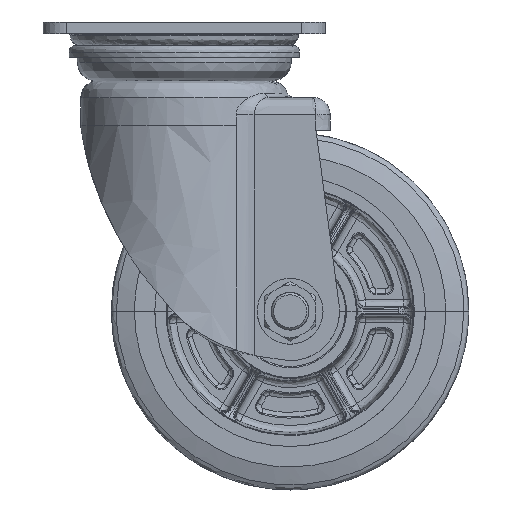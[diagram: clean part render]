
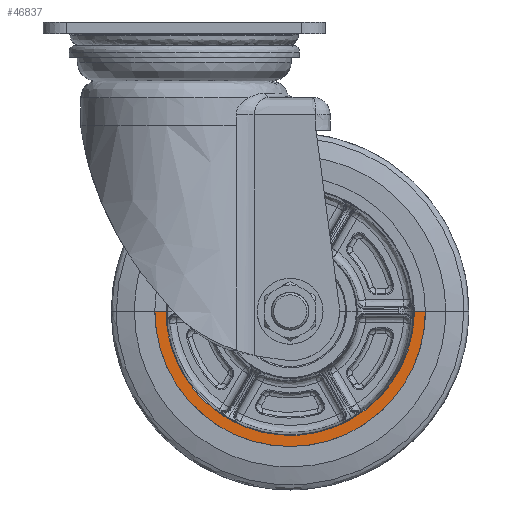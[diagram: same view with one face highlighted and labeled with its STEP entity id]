
A CAD part, left-side view. The second image highlights one B-rep face of the part: STEP entity #46837.
In plain terms, the highlighted planar face has unit normal (-1, 0, 0).
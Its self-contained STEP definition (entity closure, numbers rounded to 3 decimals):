
#9321 = EDGE_LOOP ( 'NONE', ( #9343, #9656, #9327, #9326 ) ) ;
#9326 = ORIENTED_EDGE ( 'NONE', *, *, #49776, .F. ) ;
#9327 = ORIENTED_EDGE ( 'NONE', *, *, #49775, .F. ) ;
#9343 = ORIENTED_EDGE ( 'NONE', *, *, #49703, .F. ) ;
#9656 = ORIENTED_EDGE ( 'NONE', *, *, #49774, .F. ) ;
#13176 = B_SPLINE_CURVE_WITH_KNOTS ( 'NONE', 3,
 ( #110341, #110380, #110382, #110384, #110386, #110388, #110390, #110392, #110394, #110396, #110398, #110400, #110402, #110404, #110406, #110408, #110410, #110412, #110414 ),
 .UNSPECIFIED., .F., .F.,
 ( 4, 3, 3, 3, 3, 3, 4 ),
 ( 0., 0.167, 0.333, 0.5, 0.667, 0.833, 1. ),
 .UNSPECIFIED. ) ;
#13244 = B_SPLINE_CURVE_WITH_KNOTS ( 'NONE', 3,
 ( #112255, #112266, #112268, #112270 ),
 .UNSPECIFIED., .F., .F.,
 ( 4, 4 ),
 ( 0., 1. ),
 .UNSPECIFIED. ) ;
#13245 = B_SPLINE_CURVE_WITH_KNOTS ( 'NONE', 3,
 ( #112264, #112275, #112277, #112279, #112281, #112283, #112285, #112287, #112289, #112291, #112293, #112295, #112297, #112299, #112301, #112303, #112305, #112307, #112309 ),
 .UNSPECIFIED., .F., .F.,
 ( 4, 3, 3, 3, 3, 3, 4 ),
 ( 0., 0.167, 0.333, 0.5, 0.667, 0.833, 1. ),
 .UNSPECIFIED. ) ;
#13246 = B_SPLINE_CURVE_WITH_KNOTS ( 'NONE', 3,
 ( #112273, #112314, #112316, #112318 ),
 .UNSPECIFIED., .F., .F.,
 ( 4, 4 ),
 ( 0., 1. ),
 .UNSPECIFIED. ) ;
#13453 = FACE_OUTER_BOUND ( 'NONE', #9321, .T. ) ;
#35327 = CARTESIAN_POINT ( 'NONE',  ( -25., 57.5, 0. ) ) ;
#35328 = CARTESIAN_POINT ( 'NONE',  ( -25., -57.5, 0. ) ) ;
#46837 = ADVANCED_FACE ( 'NONE', ( #13453 ), #96954, .F. ) ;
#49703 = EDGE_CURVE ( 'NONE', #71766, #71767, #13176, .T. ) ;
#49774 = EDGE_CURVE ( 'NONE', #108359, #71766, #13244, .T. ) ;
#49775 = EDGE_CURVE ( 'NONE', #108362, #108359, #13245, .T. ) ;
#49776 = EDGE_CURVE ( 'NONE', #71767, #108362, #13246, .T. ) ;
#50043 = AXIS2_PLACEMENT_3D ( 'NONE', #96867, #96956, #96957 ) ;
#57788 = CARTESIAN_POINT ( 'NONE',  ( -25., 52.785, 0. ) ) ;
#57791 = CARTESIAN_POINT ( 'NONE',  ( -25., -52.785, 0. ) ) ;
#71766 = VERTEX_POINT ( 'NONE', #57788 ) ;
#71767 = VERTEX_POINT ( 'NONE', #57791 ) ;
#96867 = CARTESIAN_POINT ( 'NONE',  ( -25., 52.785, 0. ) ) ;
#96954 = PLANE ( 'NONE',  #50043 ) ;
#96956 = DIRECTION ( 'NONE',  ( 1., 0., 0. ) ) ;
#96957 = DIRECTION ( 'NONE',  ( 0., -1., 0. ) ) ;
#108359 = VERTEX_POINT ( 'NONE', #35327 ) ;
#108362 = VERTEX_POINT ( 'NONE', #35328 ) ;
#110341 = CARTESIAN_POINT ( 'NONE',  ( -25., 52.785, 0. ) ) ;
#110380 = CARTESIAN_POINT ( 'NONE',  ( -25., 52.785, -9.266 ) ) ;
#110382 = CARTESIAN_POINT ( 'NONE',  ( -25., 50.346, -18.368 ) ) ;
#110384 = CARTESIAN_POINT ( 'NONE',  ( -25., 45.713, -26.392 ) ) ;
#110386 = CARTESIAN_POINT ( 'NONE',  ( -25., 41.08, -34.417 ) ) ;
#110388 = CARTESIAN_POINT ( 'NONE',  ( -25., 34.417, -41.08 ) ) ;
#110390 = CARTESIAN_POINT ( 'NONE',  ( -25., 26.392, -45.713 ) ) ;
#110392 = CARTESIAN_POINT ( 'NONE',  ( -25., 18.368, -50.346 ) ) ;
#110394 = CARTESIAN_POINT ( 'NONE',  ( -25., 9.266, -52.785 ) ) ;
#110396 = CARTESIAN_POINT ( 'NONE',  ( -25., 0., -52.785 ) ) ;
#110398 = CARTESIAN_POINT ( 'NONE',  ( -25., -9.266, -52.785 ) ) ;
#110400 = CARTESIAN_POINT ( 'NONE',  ( -25., -18.368, -50.346 ) ) ;
#110402 = CARTESIAN_POINT ( 'NONE',  ( -25., -26.392, -45.713 ) ) ;
#110404 = CARTESIAN_POINT ( 'NONE',  ( -25., -34.417, -41.08 ) ) ;
#110406 = CARTESIAN_POINT ( 'NONE',  ( -25., -41.08, -34.417 ) ) ;
#110408 = CARTESIAN_POINT ( 'NONE',  ( -25., -45.713, -26.392 ) ) ;
#110410 = CARTESIAN_POINT ( 'NONE',  ( -25., -50.346, -18.368 ) ) ;
#110412 = CARTESIAN_POINT ( 'NONE',  ( -25., -52.785, -9.266 ) ) ;
#110414 = CARTESIAN_POINT ( 'NONE',  ( -25., -52.785, 0. ) ) ;
#112255 = CARTESIAN_POINT ( 'NONE',  ( -25., 57.5, 0. ) ) ;
#112264 = CARTESIAN_POINT ( 'NONE',  ( -25., -57.5, 0. ) ) ;
#112266 = CARTESIAN_POINT ( 'NONE',  ( -25., 55.928, 0. ) ) ;
#112268 = CARTESIAN_POINT ( 'NONE',  ( -25., 54.356, 0. ) ) ;
#112270 = CARTESIAN_POINT ( 'NONE',  ( -25., 52.785, 0. ) ) ;
#112273 = CARTESIAN_POINT ( 'NONE',  ( -25., -52.785, 0. ) ) ;
#112275 = CARTESIAN_POINT ( 'NONE',  ( -25., -57.5, -10.093 ) ) ;
#112277 = CARTESIAN_POINT ( 'NONE',  ( -25., -54.843, -20.009 ) ) ;
#112279 = CARTESIAN_POINT ( 'NONE',  ( -25., -49.796, -28.75 ) ) ;
#112281 = CARTESIAN_POINT ( 'NONE',  ( -25., -44.75, -37.491 ) ) ;
#112283 = CARTESIAN_POINT ( 'NONE',  ( -25., -37.491, -44.75 ) ) ;
#112285 = CARTESIAN_POINT ( 'NONE',  ( -25., -28.75, -49.796 ) ) ;
#112287 = CARTESIAN_POINT ( 'NONE',  ( -25., -20.009, -54.843 ) ) ;
#112289 = CARTESIAN_POINT ( 'NONE',  ( -25., -10.093, -57.5 ) ) ;
#112291 = CARTESIAN_POINT ( 'NONE',  ( -25., 0., -57.5 ) ) ;
#112293 = CARTESIAN_POINT ( 'NONE',  ( -25., 10.093, -57.5 ) ) ;
#112295 = CARTESIAN_POINT ( 'NONE',  ( -25., 20.009, -54.843 ) ) ;
#112297 = CARTESIAN_POINT ( 'NONE',  ( -25., 28.75, -49.796 ) ) ;
#112299 = CARTESIAN_POINT ( 'NONE',  ( -25., 37.491, -44.75 ) ) ;
#112301 = CARTESIAN_POINT ( 'NONE',  ( -25., 44.75, -37.491 ) ) ;
#112303 = CARTESIAN_POINT ( 'NONE',  ( -25., 49.796, -28.75 ) ) ;
#112305 = CARTESIAN_POINT ( 'NONE',  ( -25., 54.843, -20.009 ) ) ;
#112307 = CARTESIAN_POINT ( 'NONE',  ( -25., 57.5, -10.093 ) ) ;
#112309 = CARTESIAN_POINT ( 'NONE',  ( -25., 57.5, 0. ) ) ;
#112314 = CARTESIAN_POINT ( 'NONE',  ( -25., -54.356, 0. ) ) ;
#112316 = CARTESIAN_POINT ( 'NONE',  ( -25., -55.928, 0. ) ) ;
#112318 = CARTESIAN_POINT ( 'NONE',  ( -25., -57.5, 0. ) ) ;
